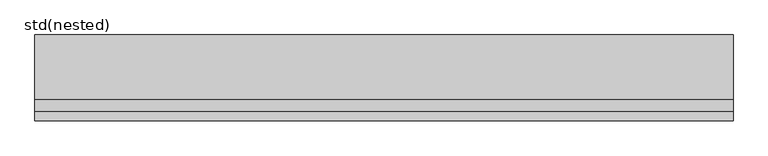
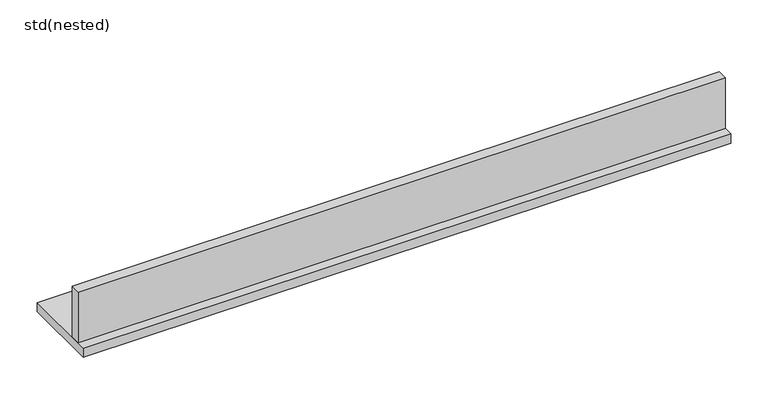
"""IFC4 building model written with IfcOpenShell, lengths in millimetres: sanitary terminal geometry, ZZZ_do not use_PF_ST_SlabDrain_H100_gratings_USA_ACO : std(nested)."""

import ifcopenshell
import ifcopenshell.guid

model = None  # the IFC model being written
_history = None  # IfcOwnerHistory: only IFC2X3 demands one
_inside = {}  # id of a spatial element -> (the spatial element, [elements in it])
_under = {}  # id of a project, library or spatial element -> (it, [spatial elements below it])
_declared = {}  # id of a project -> (the project, [libraries it declares])
_typed = {}  # id of a type object -> (the type object, [elements of that type])
_made_of = {}  # id of a material, layer set ... -> (it, [elements and type objects made of it])


def new_model(schema):
    """Start an empty IFC model of exactly this schema.

    Asked for "IFC4X3", IfcOpenShell would pick the latest addendum, in which some entities
    have other attributes; the version numbers below select the first issue.
    IFC2X3 requires an IfcOwnerHistory on every rooted entity: one is made here for all.
    """
    global model, _history
    if schema == "IFC4X3":
        model = ifcopenshell.file(schema_version=(4, 3, 0, 0))
    else:
        model = ifcopenshell.file(schema=schema)
    _inside.clear()
    _under.clear()
    _declared.clear()
    _typed.clear()
    _made_of.clear()
    _history = None
    if model.schema == "IFC2X3":
        org = make("IfcOrganization", Name="unknown")
        user = make(
            "IfcPersonAndOrganization",
            ThePerson=make("IfcPerson", FamilyName="unknown"),
            TheOrganization=org,
        )
        app = make(
            "IfcApplication",
            ApplicationDeveloper=org,
            Version="unknown",
            ApplicationFullName="unknown",
            ApplicationIdentifier="unknown",
        )
        _history = make(
            "IfcOwnerHistory",
            OwningUser=user,
            OwningApplication=app,
            ChangeAction="ADDED",
            CreationDate=0,
        )
    return model


def make(cls, **values):
    """One entity of the class cls with the attributes given. An attribute that is None is left unset."""
    return model.create_entity(
        cls, **{name: value for name, value in values.items() if value is not None}
    )


def rooted(cls, **values):
    """An entity with a GlobalId (a new one), such as an element, a storey or a relation."""
    return make(cls, GlobalId=ifcopenshell.guid.new(), OwnerHistory=_history, **values)


def si_unit(unit_type, name, prefix=None):
    """IfcSIUnit, for example si_unit("LENGTHUNIT", "METRE", prefix="MILLI")."""
    return make("IfcSIUnit", UnitType=unit_type, Prefix=prefix, Name=name)


def assignment(units):
    """IfcUnitAssignment: the units of a project."""
    return None if units is None else make("IfcUnitAssignment", Units=units)


def point(xyz):
    """IfcCartesianPoint."""
    return None if xyz is None else make("IfcCartesianPoint", Coordinates=xyz)


def direction(xyz):
    """IfcDirection."""
    return None if xyz is None else make("IfcDirection", DirectionRatios=xyz)


def frame(location, z_axis=None, x_axis=None):
    """IfcAxis2Placement3D, a coordinate frame: its origin and axes. An axis left out is left unset."""
    return make(
        "IfcAxis2Placement3D",
        Location=point(location),
        Axis=direction(z_axis),
        RefDirection=direction(x_axis),
    )


def origin():
    """The frame at (0, 0, 0) with its axes left unset."""
    return frame((0.0, 0.0, 0.0))


def place(relative_to, where):
    """IfcLocalPlacement: puts the frame where relative to a parent placement (None: the world)."""
    return make(
        "IfcLocalPlacement", PlacementRelTo=relative_to, RelativePlacement=where
    )


def context(
    kind, dimensions, precision=None, world=None, true_north=None, identifier=None
):
    """IfcGeometricRepresentationContext, for example the 3D "Model" context."""
    return make(
        "IfcGeometricRepresentationContext",
        ContextIdentifier=identifier,
        ContextType=kind,
        CoordinateSpaceDimension=dimensions,
        Precision=precision,
        WorldCoordinateSystem=world,
        TrueNorth=true_north,
    )


def project(units=None, contexts=None):
    """IfcProject with its units and contexts."""
    return rooted(
        "IfcProject",
        Name="project",
        RepresentationContexts=contexts,
        UnitsInContext=assignment(units),
    )


def spatial(cls, under=None, at=None, **own):
    """A site, building, storey or space (cls), placed at a placement, below another one or the project."""
    s = rooted(cls, ObjectPlacement=at, **own)
    if under is not None:
        _under.setdefault(under.id(), (under, []))[1].append(s)
    return s


def polyline(points):
    """IfcPolyline through the points."""
    return make("IfcPolyline", Points=[point(p) for p in points])


def outline(outer, holes=None, kind="AREA"):
    """IfcArbitraryClosedProfileDef: a profile drawn as a closed curve; with holes, ...WithVoids."""
    if holes is None:
        return make("IfcArbitraryClosedProfileDef", ProfileType=kind, OuterCurve=outer)
    return make(
        "IfcArbitraryProfileDefWithVoids",
        ProfileType=kind,
        OuterCurve=outer,
        InnerCurves=holes,
    )


def extrude(swept, where, along, depth):
    """IfcExtrudedAreaSolid: the profile swept, set in the frame where, extruded along a direction by depth."""
    return make(
        "IfcExtrudedAreaSolid",
        SweptArea=swept,
        Position=where,
        ExtrudedDirection=direction(along),
        Depth=depth,
    )


def shape(context_of_items, identifier, shape_type, items):
    """IfcShapeRepresentation: the items that make up one representation, for example the "Body"."""
    return make(
        "IfcShapeRepresentation",
        ContextOfItems=context_of_items,
        RepresentationIdentifier=identifier,
        RepresentationType=shape_type,
        Items=items,
    )


def source(mapping_origin, context_of_items, identifier, shape_type, items):
    """IfcRepresentationMap: a shape defined once, which mapped items show again and again."""
    return make(
        "IfcRepresentationMap",
        MappingOrigin=mapping_origin,
        MappedRepresentation=shape(context_of_items, identifier, shape_type, items),
    )


def transform(
    local_origin,
    x_axis=None,
    y_axis=None,
    z_axis=None,
    scale=None,
    scale2=None,
    scale3=None,
    uniform=True,
):
    """IfcCartesianTransformationOperator3D, or its non-uniform kind. x_axis, y_axis, z_axis: its Axis1, 2, 3."""
    if uniform:
        return make(
            "IfcCartesianTransformationOperator3D",
            Axis1=direction(x_axis),
            Axis2=direction(y_axis),
            LocalOrigin=point(local_origin),
            Scale=scale,
            Axis3=direction(z_axis),
        )
    return make(
        "IfcCartesianTransformationOperator3DnonUniform",
        Axis1=direction(x_axis),
        Axis2=direction(y_axis),
        LocalOrigin=point(local_origin),
        Scale=scale,
        Axis3=direction(z_axis),
        Scale2=scale2,
        Scale3=scale3,
    )


def mapped(mapping_source, mapping_target):
    """IfcMappedItem: shows the shape of a source again, moved by a transform."""
    return make(
        "IfcMappedItem", MappingSource=mapping_source, MappingTarget=mapping_target
    )


def made_of(thing, what):
    """Note that an element or type object is made of a material, layer set ...; save() writes the relation."""
    if what is not None:
        _made_of.setdefault(what.id(), (what, []))[1].append(thing)
    return thing


def element(
    cls,
    number,
    at=None,
    inside=None,
    cuts=None,
    type_object=None,
    material=None,
    context=None,
    identifier="Body",
    shape_type=None,
    held_by="IfcProductDefinitionShape",
    body=None,
    shapes=None,
    **own,
):
    """One element of the class cls, such as IfcWall. Its Tag is "e" and its number.

    at: its placement. inside: the storey or other place that contains it. cuts: it is an
    opening in that element (IfcRelVoidsElement). A single representation is given by context,
    identifier, shape_type and body (its items); several are given by shapes. held_by: the class
    of the entity that holds the representations. save() writes the other relations.
    """
    e = rooted(cls, Tag="e%d" % number, ObjectPlacement=at, **own)
    if body is not None:
        shapes = [shape(context, identifier, shape_type, body)]
    if shapes is not None:
        e.Representation = make(held_by, Representations=shapes)
    if inside is not None:
        _inside.setdefault(inside.id(), (inside, []))[1].append(e)
    if cuts is not None:
        rooted(
            "IfcRelVoidsElement", RelatingBuildingElement=cuts, RelatedOpeningElement=e
        )
    if type_object is not None:
        _typed.setdefault(type_object.id(), (type_object, []))[1].append(e)
    return made_of(e, material)


def aggregate(whole, parts):
    """IfcRelAggregates: a whole, such as a stair, and the parts it consists of."""
    return rooted("IfcRelAggregates", RelatingObject=whole, RelatedObjects=parts)


def save(model, path):
    """Write the relations noted so far, then the file.

    IfcRelAggregates (storeys below a building ...), IfcRelContainedInSpatialStructure (elements
    in a storey), IfcRelDefinesByType, IfcRelAssociatesMaterial and IfcRelDeclares: one each for
    every whole, place, type object, material and project.
    """
    for whole, parts in _under.values():
        aggregate(whole, parts)
    for where, things in _inside.values():
        rooted(
            "IfcRelContainedInSpatialStructure",
            RelatedElements=things,
            RelatingStructure=where,
        )
    for kind, things in _typed.values():
        rooted("IfcRelDefinesByType", RelatedObjects=things, RelatingType=kind)
    for what, things in _made_of.values():
        rooted("IfcRelAssociatesMaterial", RelatedObjects=things, RelatingMaterial=what)
    for by, libraries in _declared.values():
        rooted("IfcRelDeclares", RelatingContext=by, RelatedDefinitions=libraries)
    model.write(path)


def std_nested_d8b6aa4a(model_context):
    return source(origin(), model_context, "Body", "SweptSolid", [
        extrude(outline(polyline([(499.999, 61.5), (499.999, -61.5), (-499.999, -61.5), (-499.999, 61.5), (499.999, 61.5)])), frame((0.0, 0.0, -98.0), z_axis=(0.0, 0.0, 1.0), x_axis=(1.0, 0.0, 0.0)), (0.0, 0.0, 1.0), 15.0),
        extrude(outline(polyline([(499.999, -47.5), (-499.999, -47.5), (-499.999, -31.5), (499.999, -31.5), (499.999, -47.5)])), frame((0.0, 0.0, -83.0), z_axis=(0.0, 0.0, 1.0), x_axis=(1.0, 0.0, 0.0)), (0.0, 0.0, 1.0), 83.0),
    ])


if __name__ == "__main__":
    model = new_model("IFC4")
    model_context = context("Model", 3, world=origin())
    ifc_project = project(units=[si_unit("LENGTHUNIT", "METRE", prefix="MILLI")], contexts=[model_context])
    site = spatial("IfcSite", under=ifc_project)
    building = spatial("IfcBuilding", under=site)
    placement = place(None, origin())
    std_nested_shape = std_nested_d8b6aa4a(model_context)
    element("IfcSanitaryTerminal", 1, ObjectType="ZZZ_do not use_PF_ST_SlabDrain_H100_gratings_USA_ACO : std(nested)", at=placement, inside=building, context=model_context, shape_type="MappedRepresentation", body=[
        mapped(std_nested_shape, transform((0.0, 0.0, 0.0), x_axis=(1.0, 0.0, 0.0), y_axis=(0.0, 1.0, 0.0), z_axis=(0.0, 0.0, 1.0))),
    ])
    save(model, "model.ifc")
